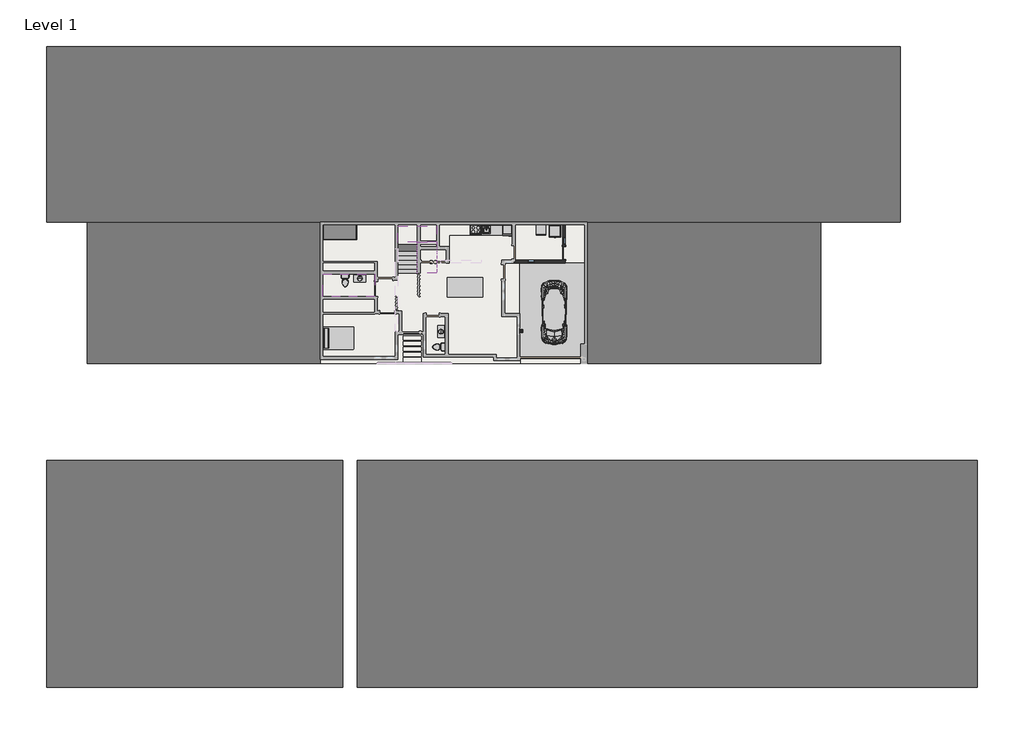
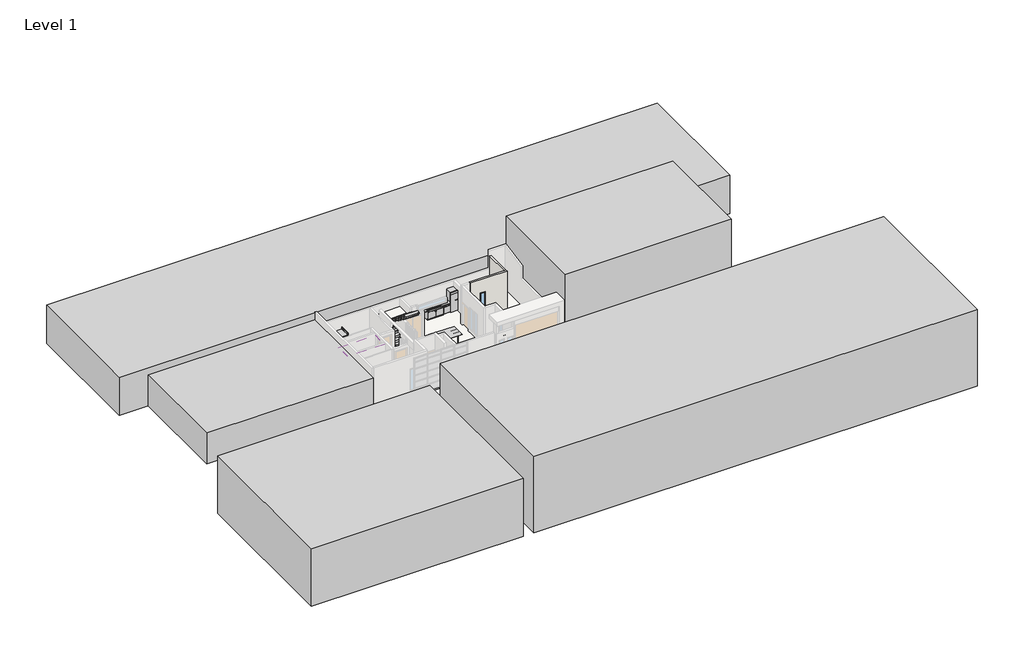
# One storey, part 3 of 3: 9 proxies, 5 flow terminals, 5 slabs, 4 furniture elements, 2 stair flights, 2 walls, 2 windows, 1 covering, 2 other elements.
"""IFC4 building model written with IfcOpenShell, lengths in millimetres."""

from ifc_helpers import new_model, si_unit, frame, origin, place, context, project, spatial, polyline, outline, extrude, faceted_brep, transform, mapped, element, save
from components import m_cook_top_4_unit2_0615_x_500mm_249f3515, m_dishwasher_600mm_bc371557, m_dishwasher_610_x_610_x_875mm_54ecfc4c, m_kitchenette_medium_m_kitchenette_medium_99ec13b9, m_rpc_beetle_m_rpc_beetle_b6d71803, m_refrigerator_600_x_660mm_a466bf94, m_washer_front_load_700mm_9d4a3417, m_single_flush_800_b7240e34, m_lavatory_vanity_760_mmx455_mm_private_e939bdd3, m_sink_kitchen_island_450_x_450mm_f969cf2d, m_toilet_domestic_3d_m_toilet_domestic_3d_43425dfb, m_toilet_domestic_3d_m_toilet_domestic_3d_5530cc89, furniture_2083_x_0915_x_1500mm_7f35f9eb, m_bed_standard_1372_x_1905mm_double_2dcc4a2e, m_counter_top_w_sink_hole_600mm_depth_8ccae52a, m_table_dining_0762_x_2134mm_dd4f9230, ramp_1_197fc1fa, m_fixed_e2bd5fef

model = new_model("IFC4")

# Units and contexts
model_context = context("Model", 3, world=origin())
ifc_project = project(units=[si_unit("LENGTHUNIT", "METRE", prefix="MILLI")], contexts=[model_context])

# Site, building, storey
site = spatial("IfcSite", under=ifc_project)
building = spatial("IfcBuilding", under=site)
storey = spatial("IfcBuildingStorey", under=building, Name="Level 1", Elevation=180.0)

# Proxies
placement = place(None, origin())
element("IfcBuildingElementProxy", 1, Name="600mm Arial", ObjectType="600mm Arial", at=placement, inside=storey, context=model_context, shape_type="SweptSolid", body=[
    extrude(outline(polyline([(-3570.613588, 1882.9643417), (-3570.613588, 1810.3199104), (-3574.0471533, 1778.0198712), (-3584.1271199, 1754.0094396), (-3602.3495414, 1735.6643908), (-3631.6084228, 1721.9301297), (-3672.1490186, 1716.583578), (-3697.5328763, 1718.557878), (-3719.9246271, 1724.4807782), (-3738.956389, 1734.3768038), (-3754.26028, 1748.2704805), (-3763.0526596, 1761.7840125), (-3768.6322032, 1777.799142), (-3771.5262083, 1813.6553738), (-3771.5262083, 1882.9643417), (-3570.613588, 1882.9643417)]), holes=[polyline([(-3595.7276655, 1857.8502641), (-3746.4121307, 1857.8502641), (-3746.4121307, 1814.0968322), (-3742.3899542, 1778.485855), (-3734.0022448, 1764.2917414), (-3720.1208308, 1752.4152843), (-3699.9118465, 1744.3770627), (-3672.5414261, 1741.6976555), (-3651.8848521, 1743.0649503), (-3634.5514787, 1747.1668345), (-3620.4799924, 1753.7212654), (-3609.6090795, 1762.4462001), (-3599.3574345, 1781.0855545), (-3595.7276655, 1813.4101191), (-3595.7276655, 1857.8502641)])]), frame((5457.4157981, 0.0, 0.0), z_axis=(1.0, 0.0, 0.0), x_axis=(0.0, 1.0, 0.0)), (0.0, 0.0, 1.0), 150.0),
    extrude(outline(polyline([(-3570.613588, 1705.4490163), (-3570.613588, 1678.9124617), (-3633.3987818, 1655.9566252), (-3633.3987818, 1573.2077017), (-3570.613588, 1550.2028143), (-3570.613588, 1523.6662597), (-3771.5262083, 1603.8645347), (-3771.5262083, 1625.2507413), (-3570.613588, 1705.4490163)]), holes=[polyline([(-3658.5128593, 1646.7350498), (-3712.2236306, 1627.0656258), (-3746.4121307, 1614.557638), (-3707.9071486, 1600.4800203), (-3658.5128593, 1582.3802261), (-3658.5128593, 1646.7350498)])]), frame((5457.4157981, 0.0, 0.0), z_axis=(1.0, 0.0, 0.0), x_axis=(0.0, 1.0, 0.0)), (0.0, 0.0, 1.0), 150.0),
    extrude(outline(polyline([(-3570.613588, 1496.8353995), (-3570.613588, 1471.721322), (-3658.5128593, 1471.721322), (-3658.5128593, 1441.4078456), (-3657.6299426, 1426.8397186), (-3652.8474766, 1414.8958165), (-3639.824454, 1401.6275392), (-3612.2578298, 1382.7429301), (-3570.613588, 1356.598783), (-3570.613588, 1327.413478), (-3625.0601232, 1360.9152651), (-3650.9099648, 1381.2714021), (-3661.652119, 1395.5452235), (-3668.3107831, 1370.8051594), (-3680.3405244, 1353.4840488), (-3696.7480614, 1343.2753234), (-3716.5401127, 1339.8724149), (-3732.451009, 1341.9264227), (-3746.9271655, 1348.0884462), (-3758.6012875, 1357.6901662), (-3766.1060802, 1370.063264), (-3770.1711762, 1386.9919671), (-3771.5262083, 1410.2605033), (-3771.5262083, 1496.8353995), (-3570.613588, 1496.8353995)]), holes=[polyline([(-3683.6269369, 1471.721322), (-3746.4121307, 1471.721322), (-3746.4121307, 1409.1813828), (-3744.241627, 1389.3096237), (-3737.7301156, 1375.6060194), (-3727.8586154, 1367.6413742), (-3715.608145, 1364.9864925), (-3698.5629459, 1370.5537733), (-3691.8061799, 1377.4086412), (-3687.1831295, 1386.838683), (-3683.6269369, 1415.5089531), (-3683.6269369, 1471.721322)])]), frame((5457.4157981, 0.0, 0.0), z_axis=(1.0, 0.0, 0.0), x_axis=(0.0, 1.0, 0.0)), (0.0, 0.0, 1.0), 150.0),
    extrude(outline(polyline([(-3642.031746, 1154.6560931), (-3620.522912, 1162.7801538), (-3605.0473427, 1175.9687233), (-3595.70314, 1193.4369867), (-3592.5884058, 1214.4001291), (-3594.8754055, 1232.3834273), (-3601.7364048, 1249.0546131), (-3613.2204544, 1262.9605525), (-3629.3766053, 1272.6481117), (-3649.4384368, 1278.3318885), (-3672.639528, 1280.2264808), (-3691.5854507, 1278.6261941), (-3709.9672877, 1273.8253341), (-3726.2276719, 1265.0758739), (-3738.8092362, 1251.629787), (-3746.8658519, 1233.9101376), (-3749.5513904, 1212.3399899), (-3747.1295006, 1193.6270591), (-3739.8638312, 1178.3967445), (-3727.3006611, 1166.5018933), (-3708.9862691, 1157.7953528), (-3714.9704829, 1132.6812752), (-3740.1826623, 1143.7729174), (-3759.0182204, 1161.0572398), (-3770.7536561, 1183.8230039), (-3774.665468, 1211.3589713), (-3771.6427042, 1236.5956761), (-3762.574413, 1259.625089), (-3747.6813236, 1279.043127), (-3727.1841651, 1293.4457071), (-3701.8861466, 1302.3668455), (-3672.590477, 1305.3405583), (-3644.8153864, 1302.710202), (-3618.8797057, 1294.8191333), (-3596.8190488, 1281.8942125), (-3580.6690292, 1264.1623003), (-3570.7730035, 1241.0286542), (-3567.4743283, 1211.8985315), (-3571.8337299, 1183.2037359), (-3584.9119348, 1159.3159317), (-3606.2920101, 1141.1302984), (-3635.5570228, 1129.5420156), (-3642.031746, 1154.6560931)])), frame((5457.4157981, 0.0, 0.0), z_axis=(1.0, 0.0, 0.0), x_axis=(0.0, 1.0, 0.0)), (0.0, 0.0, 1.0), 150.0),
    extrude(outline(polyline([(-3668.4211477, 1104.427938), (-3642.7245904, 1101.5584585), (-3618.4137219, 1092.9500198), (-3597.2850326, 1078.7743002), (-3581.135013, 1059.2029781), (-3570.8894995, 1035.4378012), (-3567.4743283, 1008.6805174), (-3570.564537, 983.4744694), (-3579.8351633, 960.0465176), (-3595.1145288, 940.0705253), (-3616.2309554, 925.2203554), (-3641.8723304, 916.0049115), (-3670.7265416, 912.9330968), (-3699.200608, 915.8516273), (-3724.4863638, 924.6072188), (-3745.5660021, 938.9300911), (-3761.4217161, 958.5504642), (-3771.35453, 982.180751), (-3774.665468, 1008.5333646), (-3772.9027001, 1028.7270205), (-3767.6143964, 1046.9770331), (-3758.8005569, 1063.2834025), (-3746.4611817, 1077.6461288), (-3731.0070722, 1089.3631703), (-3712.84903, 1097.7324857), (-3691.9870552, 1102.7540749), (-3668.4211477, 1104.427938)]), holes=[polyline([(-3668.1758931, 1079.3138605), (-3705.7550389, 1074.0776734), (-3719.8403208, 1067.5324396), (-3730.7894087, 1058.3691122), (-3744.860895, 1035.401013), (-3749.5513904, 1008.3862118), (-3747.1172379, 988.9436484), (-3739.8147803, 971.5244359), (-3728.085476, 957.0850676), (-3712.3707834, 946.5820366), (-3693.1550806, 940.1808899), (-3670.9227453, 938.0471743), (-3637.6784757, 943.0319754), (-3624.2661113, 949.2629767), (-3612.9935938, 957.9863785), (-3597.6897028, 980.6663035), (-3592.5884058, 1008.8276702), (-3597.6406519, 1036.5843667), (-3612.7973901, 1059.2275035), (-3636.746508, 1074.2922712), (-3668.1758931, 1079.3138605)])]), frame((5457.4157981, 0.0, 0.0), z_axis=(1.0, 0.0, 0.0), x_axis=(0.0, 1.0, 0.0)), (0.0, 0.0, 1.0), 150.0),
])
m_cook_top_4_unit2_0615_x_500mm_shape = m_cook_top_4_unit2_0615_x_500mm_249f3515(model_context)
element("IfcBuildingElementProxy", 2, Name="M_Cook Top-4 Unit2 : 0615 x 500mm", ObjectType="M_Cook Top-4 Unit2 : 0615 x 500mm", at=placement, inside=storey, context=model_context, shape_type="MappedRepresentation", body=[
    mapped(m_cook_top_4_unit2_0615_x_500mm_shape, transform((2713.3624114, 2584.0181239, 195.0), x_axis=(1.0, 0.0, 0.0), y_axis=(0.0, 1.0, 0.0), z_axis=(0.0, 0.0, 1.0))),
])
m_dishwasher_600mm_shape = m_dishwasher_600mm_bc371557(model_context)
element("IfcBuildingElementProxy", 3, Name="M_Dishwasher : 600mm", ObjectType="M_Dishwasher : 600mm", at=placement, inside=storey, context=model_context, shape_type="MappedRepresentation", body=[
    mapped(m_dishwasher_600mm_shape, transform((6353.3449429, 2307.3685591, 180.0), x_axis=(1.0, 0.0, 0.0), y_axis=(0.0, 1.0, 0.0), z_axis=(0.0, 0.0, 1.0))),
])
m_dishwasher_610_x_610_x_875mm_shape = m_dishwasher_610_x_610_x_875mm_54ecfc4c(model_context)
element("IfcBuildingElementProxy", 4, Name="M_Dishwasher : 610 x 610 x 875mm", ObjectType="M_Dishwasher : 610 x 610 x 875mm", at=placement, inside=storey, context=model_context, shape_type="MappedRepresentation", body=[
    mapped(m_dishwasher_610_x_610_x_875mm_shape, transform((3678.3449429, 2327.3685591, 180.0), x_axis=(1.0, 0.0, 0.0), y_axis=(0.0, 1.0, 0.0), z_axis=(0.0, 0.0, 1.0))),
])
m_kitchenette_medium_m_kitchenette_medium_shape = m_kitchenette_medium_m_kitchenette_medium_99ec13b9(model_context)
element("IfcBuildingElementProxy", 5, Name="M_Kitchenette - Medium : M_Kitchenette - Medium", ObjectType="M_Kitchenette - Medium : M_Kitchenette - Medium", at=placement, inside=storey, context=model_context, shape_type="MappedRepresentation", body=[
    mapped(m_kitchenette_medium_m_kitchenette_medium_shape, transform((3042.1247065, 2899.0181239, 180.0), x_axis=(1.0, 0.0, 0.0), y_axis=(0.0, 1.0, 0.0), z_axis=(0.0, 0.0, 1.0))),
])
m_rpc_beetle_m_rpc_beetle_shape = m_rpc_beetle_m_rpc_beetle_b6d71803(model_context)
element("IfcBuildingElementProxy", 6, Name="M_RPC Beetle : M_RPC Beetle", ObjectType="M_RPC Beetle : M_RPC Beetle", at=placement, inside=storey, context=model_context, shape_type="MappedRepresentation", body=[
    mapped(m_rpc_beetle_m_rpc_beetle_shape, transform((7549.7097075, -1295.9818761, 180.0), x_axis=(-1.0, 0.0, 0.0), y_axis=(0.0, -1.0, 0.0), z_axis=(0.0, 0.0, 1.0))),
])
m_refrigerator_600_x_660mm_shape = m_refrigerator_600_x_660mm_a466bf94(model_context)
element("IfcBuildingElementProxy", 7, Name="M_Refrigerator : 600 x 660mm", ObjectType="M_Refrigerator : 600 x 660mm", at=placement, inside=storey, context=model_context, shape_type="MappedRepresentation", body=[
    mapped(m_refrigerator_600_x_660mm_shape, transform((4719.6635541, 2602.8030337, 180.0), x_axis=(1.0, 0.0, 0.0), y_axis=(0.0, 1.0, 0.0), z_axis=(0.0, 0.0, 1.0))),
])
m_washer_front_load_700mm_shape = m_washer_front_load_700mm_9d4a3417(model_context)
element("IfcBuildingElementProxy", 8, Name="M_Washer-Front_Load : 700mm", ObjectType="M_Washer-Front_Load : 700mm", at=placement, inside=storey, context=model_context, shape_type="MappedRepresentation", body=[
    mapped(m_washer_front_load_700mm_shape, transform((7600.8624114, 2979.0181239, 180.0), x_axis=(1.0, 0.0, 0.0), y_axis=(0.0, 1.0, 0.0), z_axis=(0.0, 0.0, 1.0))),
])
element("IfcBuildingElementProxy", 9, Name="Mass 1 : Mass 1", ObjectType="Mass 1 : Mass 1", at=placement, inside=storey, context=model_context, shape_type="SweptSolid", body=[
    extrude(outline(polyline([(-23794.1375886, 13907.3349207), (28905.8624114, 13907.3349207), (28905.8624114, 3069.0181239), (-23794.1375886, 3069.0181239), (-23794.1375886, 13907.3349207)])), frame((0.0, 0.0, 180.0), z_axis=(0.0, 0.0, 1.0), x_axis=(1.0, 0.0, 0.0)), (0.0, 0.0, 1.0), 3500.0),
    extrude(outline(polyline([(9605.8624114, 3069.0181239), (24005.8624114, 3069.0181239), (24005.8624114, -5680.9818761), (9605.8624114, -5680.9818761), (9605.8624114, 3069.0181239)])), frame((0.0, 0.0, 180.0), z_axis=(0.0, 0.0, 1.0), x_axis=(1.0, 0.0, 0.0)), (0.0, 0.0, 1.0), 6500.0),
    extrude(outline(polyline([(-21294.1375886, 3069.0181239), (-6894.1375886, 3069.0181239), (-6894.1375886, -5680.9818761), (-21294.1375886, -5680.9818761), (-21294.1375886, 3069.0181239)])), frame((0.0, 0.0, 180.0), z_axis=(0.0, 0.0, 1.0), x_axis=(1.0, 0.0, 0.0)), (0.0, 0.0, 1.0), 2834.5766912),
    extrude(outline(polyline([(-4594.1375886, -11680.9818761), (33688.1964342, -11680.9818761), (33688.1964342, -25680.9818761), (-4594.1375886, -25680.9818761), (-4594.1375886, -11680.9818761)])), frame((0.0, 0.0, 180.0), z_axis=(0.0, 0.0, 1.0), x_axis=(1.0, 0.0, 0.0)), (0.0, 0.0, 1.0), 7000.0),
    extrude(outline(polyline([(-23794.1375886, -11680.9818761), (-5494.1375886, -11680.9818761), (-5494.1375886, -25680.9818761), (-23794.1375886, -25680.9818761), (-23794.1375886, -11680.9818761)])), frame((0.0, 0.0, 180.0), z_axis=(0.0, 0.0, 1.0), x_axis=(1.0, 0.0, 0.0)), (0.0, 0.0, 1.0), 5274.7462067),
])

# Covering
element("IfcCovering", 10, ObjectType="600 x 1200mm grid", at=placement, inside=storey, context=model_context, shape_type="SweptSolid", body=[
    extrude(outline(polyline([(-6724.1375886, -1530.9818761), (-6724.1375886, -150.9818761), (-3535.1157199, -150.9818761), (-3535.1157199, -1530.9818761), (-6724.1375886, -1530.9818761)])), frame((0.0, 0.0, 2380.0), z_axis=(0.0, 0.0, 1.0), x_axis=(1.0, 0.0, 0.0)), (0.0, 0.0, 1.0), 52.0),
])

# Door
m_single_flush_800_shape = m_single_flush_800_b7240e34(model_context)
element("IfcDoor", 11, ObjectType="M_Single-Flush : 800", at=placement, inside=storey, context=model_context, shape_type="MappedRepresentation", body=[
    mapped(m_single_flush_800_shape, transform((8150.8624114, 1155.0181239, 180.0), x_axis=(0.0, -1.0, 0.0), y_axis=(1.0, 0.0, 0.0), z_axis=(0.0, 0.0, 1.0))),
])

# Flow terminals
m_lavatory_vanity_760_mmx455_mm_private_shape = m_lavatory_vanity_760_mmx455_mm_private_e939bdd3(model_context)
element("IfcFlowTerminal", 12, ObjectType="M_Lavatory - Vanity : 760 mmx455 mm - Private", at=placement, inside=storey, context=model_context, shape_type="MappedRepresentation", body=[
    mapped(m_lavatory_vanity_760_mmx455_mm_private_shape, transform((-4450.1157199, -150.9818761, 180.0), x_axis=(0.0, -1.0, 0.0), y_axis=(1.0, 0.0, 0.0), z_axis=(0.0, 0.0, 1.0))),
])
element("IfcFlowTerminal", 13, ObjectType="M_Lavatory - Vanity : 760 mmx455 mm - Private", at=placement, inside=storey, context=model_context, shape_type="MappedRepresentation", body=[
    mapped(m_lavatory_vanity_760_mmx455_mm_private_shape, transform((834.8842801, -3705.9818761, 180.0), x_axis=(-1.0, 0.0, 0.0), y_axis=(0.0, -1.0, 0.0), z_axis=(0.0, 0.0, 1.0))),
])
m_sink_kitchen_island_450_x_450mm_shape = m_sink_kitchen_island_450_x_450mm_f969cf2d(model_context)
element("IfcFlowTerminal", 14, ObjectType="M_Sink Kitchen-Island : 450 x 450mm", at=placement, inside=storey, context=model_context, shape_type="MappedRepresentation", body=[
    mapped(m_sink_kitchen_island_450_x_450mm_shape, transform((3350.1731709, 2583.5727227, 195.0), x_axis=(1.0, 0.0, 0.0), y_axis=(0.0, 1.0, 0.0), z_axis=(0.0, 0.0, 1.0))),
])
m_toilet_domestic_3d_m_toilet_domestic_3d_shape = m_toilet_domestic_3d_m_toilet_domestic_3d_43425dfb(model_context)
m_toilet_domestic_3d_m_toilet_domestic_3d_2_shape = m_toilet_domestic_3d_m_toilet_domestic_3d_5530cc89(model_context)
element("IfcFlowTerminal", 15, ObjectType="M_Toilet-Domestic-3D : M_Toilet-Domestic-3D", at=placement, inside=storey, context=model_context, shape_type="MappedRepresentation", body=[
    mapped(m_toilet_domestic_3d_m_toilet_domestic_3d_shape, transform((-5356.4103567, -645.6779035, 180.0), x_axis=(-1.0, 0.0, 0.0), y_axis=(0.0, -1.0, 0.0), z_axis=(0.0, 0.0, 1.0))),
    mapped(m_toilet_domestic_3d_m_toilet_domestic_3d_2_shape, transform((-5356.4103567, -645.6779035, 180.0), x_axis=(-1.0, 0.0, 0.0), y_axis=(0.0, -1.0, 0.0), z_axis=(0.0, 0.0, 1.0))),
])
element("IfcFlowTerminal", 16, ObjectType="M_Toilet-Domestic-3D : M_Toilet-Domestic-3D", at=placement, inside=storey, context=model_context, shape_type="MappedRepresentation", body=[
    mapped(m_toilet_domestic_3d_m_toilet_domestic_3d_shape, transform((340.1882527, -4659.3779035, 180.0), x_axis=(0.0, 1.0, 0.0), y_axis=(-1.0, 0.0, 0.0), z_axis=(0.0, 0.0, 1.0))),
    mapped(m_toilet_domestic_3d_m_toilet_domestic_3d_2_shape, transform((340.1882527, -4659.3779035, 180.0), x_axis=(0.0, 1.0, 0.0), y_axis=(-1.0, 0.0, 0.0), z_axis=(0.0, 0.0, 1.0))),
])

# Furniture
furniture_2083_x_0915_x_1500mm_shape = furniture_2083_x_0915_x_1500mm_7f35f9eb(model_context)
element("IfcFurniture", 17, ObjectType="M_Bed-Bunk : 2083 x 0915 x 1500mm", at=placement, inside=storey, context=model_context, shape_type="MappedRepresentation", body=[
    mapped(furniture_2083_x_0915_x_1500mm_shape, transform((-6073.6310312, 2033.0361566, 180.0), x_axis=(0.0, 1.0, 0.0), y_axis=(-1.0, 0.0, 0.0), z_axis=(0.0, 0.0, 1.0))),
])
m_bed_standard_1372_x_1905mm_double_shape = m_bed_standard_1372_x_1905mm_double_2dcc4a2e(model_context)
element("IfcFurniture", 18, ObjectType="M_Bed-Standard : 1372 x 1905mm - Double", at=placement, inside=storey, context=model_context, shape_type="MappedRepresentation", body=[
    mapped(m_bed_standard_1372_x_1905mm_double_shape, transform((-5817.2326705, -4386.4704007, 180.0), x_axis=(0.0, 1.0, 0.0), y_axis=(-1.0, 0.0, 0.0), z_axis=(0.0, 0.0, 1.0))),
])
m_counter_top_w_sink_hole_600mm_depth_shape = m_counter_top_w_sink_hole_600mm_depth_8ccae52a(model_context)
element("IfcFurniture", 19, ObjectType="M_Counter Top w Sink Hole : 600mm Depth", at=placement, inside=storey, context=model_context, shape_type="MappedRepresentation", body=[
    mapped(m_counter_top_w_sink_hole_600mm_depth_shape, transform((3566.3247065, 2899.0181239, 195.0), x_axis=(1.0, 0.0, 0.0), y_axis=(0.0, 1.0, 0.0), z_axis=(0.0, 0.0, 1.0))),
])
m_table_dining_0762_x_2134mm_shape = m_table_dining_0762_x_2134mm_dd4f9230(model_context)
element("IfcFurniture", 20, ObjectType="M_Table-Dining : 0762 x 2134mm", at=placement, inside=storey, context=model_context, shape_type="MappedRepresentation", body=[
    mapped(m_table_dining_0762_x_2134mm_shape, transform((2072.8190634, -870.7707983, 180.0), x_axis=(-1.0, 0.0, 0.0), y_axis=(0.0, -1.0, 0.0), z_axis=(0.0, 0.0, 1.0))),
])

# Ramp
ramp_1_shape = ramp_1_197fc1fa(model_context)
element("IfcRamp", 21, ObjectType="Ramp 1", at=placement, inside=storey, context=model_context, shape_type="MappedRepresentation", body=[
    mapped(ramp_1_shape, transform((0.0, 0.0, 0.0), x_axis=(1.0, 0.0, 0.0), y_axis=(0.0, 1.0, 0.0), z_axis=(0.0, 0.0, 1.0))),
])

# Slabs
element("IfcSlab", 22, ObjectType="300mm Thickness", at=placement, inside=storey, context=model_context, shape_type="SolidModel", body=[
    faceted_brep([(-2100.1157199, 1831.5181239, 1794.0), (-900.1157199, 1831.5181239, 1794.0), (-900.1157199, 1819.0181239, 1794.0), (299.8842801, 1819.0181239, 1794.0), (299.8842801, 2819.0181239, 1794.0), (-2100.1157199, 2819.0181239, 1794.0), (-2100.1157199, 1906.5181239, 1794.0), (-2100.1157199, 1831.5181239, 1616.0), (-2100.1157199, 1831.5181239, 1516.0), (-900.1157199, 1831.5181239, 1516.0), (-900.1157199, 1831.5181239, 1616.0), (-900.1157199, 1831.5181239, 1694.0), (-900.1157199, 1819.0181239, 1694.0), (299.8842801, 1819.0181239, 1694.0), (299.8842801, 2819.0181239, 1694.0), (-2100.1157199, 2819.0181239, 1694.0), (-2100.1157199, 1931.5181239, 1694.0), (-2100.1157199, 1931.5181239, 1516.0), (-900.1157199, 1931.5181239, 1516.0), (-900.1157199, 1931.5181239, 1694.0), (-900.1157199, 1906.5181239, 1694.0)], [[[0, 1, 2, 3, 4, 5, 6]], [[1, 0, 7, 8, 9, 10, 11]], [[2, 1, 11, 12]], [[4, 3, 13, 14]], [[5, 4, 14, 15]], [[8, 7, 0, 6, 5, 15, 16, 17]], [[18, 19, 20, 11, 10, 9]], [[17, 18, 9, 8]], [[20, 19, 16, 15, 14, 13, 12, 11]], [[3, 2, 12, 13]], [[18, 17, 16, 19]]]),
    extrude(outline(polyline([(-2100.1157199, 1819.0181239), (-2100.1157199, 2819.0181239), (299.8842801, 2819.0181239), (299.8842801, 1819.0181239), (-900.1157199, 1819.0181239), (-2100.1157199, 1819.0181239)])), frame((0.0, 0.0, 1794.0), z_axis=(0.0, 0.0, 1.0), x_axis=(1.0, 0.0, 0.0)), (0.0, 0.0, 1.0), 50.0),
])
element("IfcSlab", 23, ObjectType="Barra", at=placement, inside=storey, context=model_context, shape_type="SweptSolid", body=[
    extrude(outline(polyline([(469.8842801, 2899.0181239), (2365.8624114, 2899.0181239), (2365.8624114, 2269.0181239), (1069.8842801, 2269.0181239), (1069.8842801, 1539.0181239), (469.8842801, 1539.0181239), (469.8842801, 2899.0181239)])), frame((0.0, 0.0, 990.0), z_axis=(0.0, 0.0, 1.0), x_axis=(1.0, 0.0, 0.0)), (0.0, 0.0, 1.0), 50.0),
])
element("IfcSlab", 24, ObjectType="Losa", at=placement, inside=storey, context=model_context, shape_type="SweptSolid", body=[
    extrude(outline(polyline([(-647.7505046, -3982.7352523), (-647.7505046, -4232.7352523), (-1767.7505046, -4232.7352523), (-1767.7505046, -3982.7352523), (-647.7505046, -3982.7352523)])), frame((0.0, 0.0, 100.0), z_axis=(0.0, 0.0, 1.0), x_axis=(1.0, 0.0, 0.0)), (0.0, 0.0, 1.0), 140.0),
    extrude(outline(polyline([(-647.7505046, -4317.7352523), (-647.7505046, -4567.7352523), (-1767.7505046, -4567.7352523), (-1767.7505046, -4317.7352523), (-647.7505046, -4317.7352523)])), frame((0.0, 0.0, 100.0), z_axis=(0.0, 0.0, 1.0), x_axis=(1.0, 0.0, 0.0)), (0.0, 0.0, 1.0), 140.0),
    extrude(outline(polyline([(-647.7505046, -4652.7352523), (-647.7505046, -4902.7352523), (-1767.7505046, -4902.7352523), (-1767.7505046, -4652.7352523), (-647.7505046, -4652.7352523)])), frame((0.0, 0.0, 100.0), z_axis=(0.0, 0.0, 1.0), x_axis=(1.0, 0.0, 0.0)), (0.0, 0.0, 1.0), 140.0),
    extrude(outline(polyline([(-647.7505046, -4987.7352523), (-647.7505046, -5237.7352523), (-1767.7505046, -5237.7352523), (-1767.7505046, -4987.7352523), (-647.7505046, -4987.7352523)])), frame((0.0, 0.0, 100.0), z_axis=(0.0, 0.0, 1.0), x_axis=(1.0, 0.0, 0.0)), (0.0, 0.0, 1.0), 140.0),
    extrude(outline(polyline([(-647.7505046, -5322.7352523), (-647.7505046, -5572.7352523), (-1767.7505046, -5572.7352523), (-1767.7505046, -5322.7352523), (-647.7505046, -5322.7352523)])), frame((0.0, 0.0, 100.0), z_axis=(0.0, 0.0, 1.0), x_axis=(1.0, 0.0, 0.0)), (0.0, 0.0, 1.0), 140.0),
])
element("IfcSlab", 25, ObjectType="Losa", at=placement, inside=storey, context=model_context, shape_type="SweptSolid", body=[
    extrude(outline(polyline([(9605.8624114, 3069.0181239), (9605.8624114, -5680.9818761), (-6894.1375886, -5680.9818761), (-6894.1375886, 3069.0181239), (9605.8624114, 3069.0181239)])), frame((0.0, 0.0, 40.0), z_axis=(0.0, 0.0, 1.0), x_axis=(1.0, 0.0, 0.0)), (0.0, 0.0, 1.0), 140.0),
])
element("IfcSlab", 26, ObjectType="Pasto", at=placement, inside=storey, context=model_context, shape_type="SweptSolid", body=[
    extrude(outline(polyline([(-2100.1157199, -5430.9818761), (-2100.1157199, -3880.9818761), (-545.1157199, -3880.9818761), (-545.1157199, -5279.9818761), (3805.8624114, -5279.9818761), (3805.8624114, -5494.9818761), (5464.7097075, -5494.9818761), (5464.7097075, -5680.9818761), (-6894.1375886, -5680.9818761), (-6894.1375886, -5430.9818761), (-2100.1157199, -5430.9818761)])), frame((0.0, 0.0, 210.0), z_axis=(0.0, 0.0, 1.0), x_axis=(1.0, 0.0, 0.0)), (0.0, 0.0, 1.0), 20.0),
])

# Stair flights
element("IfcStairFlight", 27, ObjectType="150mm Depth", at=placement, inside=storey, context=model_context, shape_type="SolidModel", body=[
    faceted_brep([(-2100.1157199, 181.5181239, 368.0), (-2100.1157199, -93.4818761, 368.0), (-900.1157199, -93.4818761, 368.0), (-900.1157199, 181.5181239, 368.0), (-2100.1157199, 181.5181239, 268.0), (-2100.1157199, -93.4818761, 268.0), (-900.1157199, -93.4818761, 268.0), (-900.1157199, 181.5181239, 268.0), (-2100.1157199, 456.5181239, 576.0), (-2100.1157199, 181.5181239, 576.0), (-900.1157199, 181.5181239, 576.0), (-900.1157199, 456.5181239, 576.0), (-2100.1157199, 456.5181239, 476.0), (-2100.1157199, 281.5181239, 476.0), (-2100.1157199, 281.5181239, 268.0), (-900.1157199, 281.5181239, 268.0), (-900.1157199, 281.5181239, 476.0), (-900.1157199, 456.5181239, 476.0), (-2100.1157199, 731.5181239, 784.0), (-2100.1157199, 456.5181239, 784.0), (-900.1157199, 456.5181239, 784.0), (-900.1157199, 731.5181239, 784.0), (-2100.1157199, 731.5181239, 684.0), (-2100.1157199, 556.5181239, 684.0), (-2100.1157199, 556.5181239, 476.0), (-900.1157199, 556.5181239, 476.0), (-900.1157199, 556.5181239, 684.0), (-900.1157199, 731.5181239, 684.0), (-2100.1157199, 1006.5181239, 992.0), (-2100.1157199, 731.5181239, 992.0), (-900.1157199, 731.5181239, 992.0), (-900.1157199, 1006.5181239, 992.0), (-2100.1157199, 1006.5181239, 892.0), (-2100.1157199, 831.5181239, 892.0), (-2100.1157199, 831.5181239, 684.0), (-900.1157199, 831.5181239, 684.0), (-900.1157199, 831.5181239, 892.0), (-900.1157199, 1006.5181239, 892.0), (-2100.1157199, 1281.5181239, 1200.0), (-2100.1157199, 1006.5181239, 1200.0), (-900.1157199, 1006.5181239, 1200.0), (-900.1157199, 1281.5181239, 1200.0), (-2100.1157199, 1281.5181239, 1100.0), (-2100.1157199, 1106.5181239, 1100.0), (-2100.1157199, 1106.5181239, 892.0), (-900.1157199, 1106.5181239, 892.0), (-900.1157199, 1106.5181239, 1100.0), (-900.1157199, 1281.5181239, 1100.0), (-2100.1157199, 1556.5181239, 1408.0), (-2100.1157199, 1281.5181239, 1408.0), (-900.1157199, 1281.5181239, 1408.0), (-900.1157199, 1556.5181239, 1408.0), (-2100.1157199, 1556.5181239, 1308.0), (-2100.1157199, 1381.5181239, 1308.0), (-2100.1157199, 1381.5181239, 1100.0), (-900.1157199, 1381.5181239, 1100.0), (-900.1157199, 1381.5181239, 1308.0), (-900.1157199, 1556.5181239, 1308.0), (-2100.1157199, 1656.5181239, 1308.0), (-900.1157199, 1656.5181239, 1308.0), (-2100.1157199, 1656.5181239, 1516.0), (-900.1157199, 1656.5181239, 1516.0), (-2100.1157199, 1819.0181239, 1516.0), (-2100.1157199, 1831.5181239, 1516.0), (-900.1157199, 1831.5181239, 1516.0), (-2100.1157199, 1556.5181239, 1616.0), (-900.1157199, 1556.5181239, 1616.0), (-900.1157199, 1831.5181239, 1616.0), (-2100.1157199, 1831.5181239, 1616.0), (-2100.1157199, 1819.0181239, 1616.0)], [[[0, 1, 2, 3]], [[1, 0, 4, 5]], [[2, 1, 5, 6]], [[3, 2, 6, 7]], [[8, 9, 10, 11]], [[9, 8, 12, 13, 14, 4, 0]], [[0, 3, 10, 9]], [[11, 10, 3, 7, 15, 16, 17]], [[18, 19, 20, 21]], [[19, 18, 22, 23, 24, 12, 8]], [[8, 11, 20, 19]], [[21, 20, 11, 17, 25, 26, 27]], [[28, 29, 30, 31]], [[29, 28, 32, 33, 34, 22, 18]], [[18, 21, 30, 29]], [[31, 30, 21, 27, 35, 36, 37]], [[38, 39, 40, 41]], [[39, 38, 42, 43, 44, 32, 28]], [[28, 31, 40, 39]], [[41, 40, 31, 37, 45, 46, 47]], [[48, 49, 50, 51]], [[49, 48, 52, 53, 54, 42, 38]], [[38, 41, 50, 49]], [[51, 50, 41, 47, 55, 56, 57]], [[14, 15, 7, 6, 5, 4]], [[15, 14, 13, 16]], [[24, 25, 17, 16, 13, 12]], [[25, 24, 23, 26]], [[34, 35, 27, 26, 23, 22]], [[35, 34, 33, 36]], [[44, 45, 37, 36, 33, 32]], [[45, 44, 43, 46]], [[54, 55, 47, 46, 43, 42]], [[55, 54, 53, 56]], [[58, 59, 57, 56, 53, 52]], [[59, 58, 60, 61]], [[61, 60, 62, 63, 64]], [[65, 66, 67, 68, 69]], [[48, 65, 69, 68, 63, 62, 60, 58, 52]], [[48, 51, 66, 65]], [[67, 66, 51, 57, 59, 61, 64]], [[68, 67, 64, 63]]]),
    extrude(outline(polyline([(-2100.1157199, 169.0181239), (-900.1157199, 169.0181239), (-900.1157199, -105.9818761), (-2100.1157199, -105.9818761), (-2100.1157199, 169.0181239)])), frame((0.0, 0.0, 368.0), z_axis=(0.0, 0.0, 1.0), x_axis=(1.0, 0.0, 0.0)), (0.0, 0.0, 1.0), 20.0),
    extrude(outline(polyline([(-900.1157199, -93.4818761), (-900.1157199, -105.9818761), (-2100.1157199, -105.9818761), (-2100.1157199, -93.4818761), (-900.1157199, -93.4818761)])), frame((0.0, 0.0, 180.0), z_axis=(0.0, 0.0, 1.0), x_axis=(1.0, 0.0, 0.0)), (0.0, 0.0, 1.0), 188.0),
    extrude(outline(polyline([(-900.1157199, 181.5181239), (-900.1157199, 169.0181239), (-2100.1157199, 169.0181239), (-2100.1157199, 181.5181239), (-900.1157199, 181.5181239)])), frame((0.0, 0.0, 368.0), z_axis=(0.0, 0.0, 1.0), x_axis=(1.0, 0.0, 0.0)), (0.0, 0.0, 1.0), 208.0),
    extrude(outline(polyline([(-2100.1157199, 444.0181239), (-900.1157199, 444.0181239), (-900.1157199, 169.0181239), (-2100.1157199, 169.0181239), (-2100.1157199, 444.0181239)])), frame((0.0, 0.0, 576.0), z_axis=(0.0, 0.0, 1.0), x_axis=(1.0, 0.0, 0.0)), (0.0, 0.0, 1.0), 20.0),
    extrude(outline(polyline([(-900.1157199, 456.5181239), (-900.1157199, 444.0181239), (-2100.1157199, 444.0181239), (-2100.1157199, 456.5181239), (-900.1157199, 456.5181239)])), frame((0.0, 0.0, 576.0), z_axis=(0.0, 0.0, 1.0), x_axis=(1.0, 0.0, 0.0)), (0.0, 0.0, 1.0), 208.0),
    extrude(outline(polyline([(-2100.1157199, 719.0181239), (-900.1157199, 719.0181239), (-900.1157199, 444.0181239), (-2100.1157199, 444.0181239), (-2100.1157199, 719.0181239)])), frame((0.0, 0.0, 784.0), z_axis=(0.0, 0.0, 1.0), x_axis=(1.0, 0.0, 0.0)), (0.0, 0.0, 1.0), 20.0),
    extrude(outline(polyline([(-900.1157199, 731.5181239), (-900.1157199, 719.0181239), (-2100.1157199, 719.0181239), (-2100.1157199, 731.5181239), (-900.1157199, 731.5181239)])), frame((0.0, 0.0, 784.0), z_axis=(0.0, 0.0, 1.0), x_axis=(1.0, 0.0, 0.0)), (0.0, 0.0, 1.0), 208.0),
    extrude(outline(polyline([(-2100.1157199, 994.0181239), (-900.1157199, 994.0181239), (-900.1157199, 719.0181239), (-2100.1157199, 719.0181239), (-2100.1157199, 994.0181239)])), frame((0.0, 0.0, 992.0), z_axis=(0.0, 0.0, 1.0), x_axis=(1.0, 0.0, 0.0)), (0.0, 0.0, 1.0), 20.0),
    extrude(outline(polyline([(-900.1157199, 1006.5181239), (-900.1157199, 994.0181239), (-2100.1157199, 994.0181239), (-2100.1157199, 1006.5181239), (-900.1157199, 1006.5181239)])), frame((0.0, 0.0, 992.0), z_axis=(0.0, 0.0, 1.0), x_axis=(1.0, 0.0, 0.0)), (0.0, 0.0, 1.0), 208.0),
    extrude(outline(polyline([(-2100.1157199, 1269.0181239), (-900.1157199, 1269.0181239), (-900.1157199, 994.0181239), (-2100.1157199, 994.0181239), (-2100.1157199, 1269.0181239)])), frame((0.0, 0.0, 1200.0), z_axis=(0.0, 0.0, 1.0), x_axis=(1.0, 0.0, 0.0)), (0.0, 0.0, 1.0), 20.0),
    extrude(outline(polyline([(-900.1157199, 1281.5181239), (-900.1157199, 1269.0181239), (-2100.1157199, 1269.0181239), (-2100.1157199, 1281.5181239), (-900.1157199, 1281.5181239)])), frame((0.0, 0.0, 1200.0), z_axis=(0.0, 0.0, 1.0), x_axis=(1.0, 0.0, 0.0)), (0.0, 0.0, 1.0), 208.0),
    extrude(outline(polyline([(-2100.1157199, 1544.0181239), (-900.1157199, 1544.0181239), (-900.1157199, 1269.0181239), (-2100.1157199, 1269.0181239), (-2100.1157199, 1544.0181239)])), frame((0.0, 0.0, 1408.0), z_axis=(0.0, 0.0, 1.0), x_axis=(1.0, 0.0, 0.0)), (0.0, 0.0, 1.0), 20.0),
    extrude(outline(polyline([(-900.1157199, 1556.5181239), (-900.1157199, 1544.0181239), (-2100.1157199, 1544.0181239), (-2100.1157199, 1556.5181239), (-900.1157199, 1556.5181239)])), frame((0.0, 0.0, 1408.0), z_axis=(0.0, 0.0, 1.0), x_axis=(1.0, 0.0, 0.0)), (0.0, 0.0, 1.0), 208.0),
    extrude(outline(polyline([(-900.1157199, 1831.5181239), (-900.1157199, 1819.0181239), (-2100.1157199, 1819.0181239), (-2100.1157199, 1831.5181239), (-900.1157199, 1831.5181239)])), frame((0.0, 0.0, 1616.0), z_axis=(0.0, 0.0, 1.0), x_axis=(1.0, 0.0, 0.0)), (0.0, 0.0, 1.0), 178.0),
    extrude(outline(polyline([(-2100.1157199, 1819.0181239), (-900.1157199, 1819.0181239), (-900.1157199, 1544.0181239), (-2100.1157199, 1544.0181239), (-2100.1157199, 1819.0181239)])), frame((0.0, 0.0, 1616.0), z_axis=(0.0, 0.0, 1.0), x_axis=(1.0, 0.0, 0.0)), (0.0, 0.0, 1.0), 20.0),
])
element("IfcStairFlight", 28, ObjectType="150mm Depth", at=placement, inside=storey, context=model_context, shape_type="SolidModel", body=[
    faceted_brep([(299.8842801, 1819.0181239, 1824.0), (-900.1157199, 1819.0181239, 1824.0), (-900.1157199, 1719.0181239, 1824.0), (-900.1157199, 1531.5181239, 1824.0), (299.8842801, 1531.5181239, 1824.0), (299.8842801, 1719.0181239, 1824.0), (299.8842801, 1531.5181239, 1724.0), (299.8842801, 1719.0181239, 1724.0), (299.8842801, 1719.0181239, 1694.0), (299.8842801, 1819.0181239, 1694.0), (299.8842801, 1819.0181239, 1794.0), (-900.1157199, 1819.0181239, 1694.0), (-900.1157199, 1819.0181239, 1794.0), (-900.1157199, 1719.0181239, 1694.0), (-900.1157199, 1719.0181239, 1724.0), (-900.1157199, 1531.5181239, 1724.0), (299.8842801, 1256.5181239, 2032.0), (299.8842801, 1531.5181239, 2032.0), (-900.1157199, 1531.5181239, 2032.0), (-900.1157199, 1256.5181239, 2032.0), (299.8842801, 1256.5181239, 1932.0), (299.8842801, 1431.5181239, 1932.0), (299.8842801, 1431.5181239, 1724.0), (-900.1157199, 1431.5181239, 1724.0), (-900.1157199, 1431.5181239, 1932.0), (-900.1157199, 1256.5181239, 1932.0), (299.8842801, 981.5181239, 2240.0), (299.8842801, 1256.5181239, 2240.0), (-900.1157199, 1256.5181239, 2240.0), (-900.1157199, 981.5181239, 2240.0), (299.8842801, 981.5181239, 2140.0), (299.8842801, 1156.5181239, 2140.0), (299.8842801, 1156.5181239, 1932.0), (-900.1157199, 1156.5181239, 1932.0), (-900.1157199, 1156.5181239, 2140.0), (-900.1157199, 981.5181239, 2140.0), (299.8842801, 706.5181239, 2448.0), (299.8842801, 981.5181239, 2448.0), (-900.1157199, 981.5181239, 2448.0), (-900.1157199, 706.5181239, 2448.0), (299.8842801, 706.5181239, 2348.0), (299.8842801, 881.5181239, 2348.0), (299.8842801, 881.5181239, 2140.0), (-900.1157199, 881.5181239, 2140.0), (-900.1157199, 881.5181239, 2348.0), (-900.1157199, 706.5181239, 2348.0), (299.8842801, 431.5181239, 2656.0), (299.8842801, 706.5181239, 2656.0), (-900.1157199, 706.5181239, 2656.0), (-900.1157199, 431.5181239, 2656.0), (299.8842801, 431.5181239, 2556.0), (299.8842801, 606.5181239, 2556.0), (299.8842801, 606.5181239, 2348.0), (-900.1157199, 606.5181239, 2348.0), (-900.1157199, 606.5181239, 2556.0), (-900.1157199, 431.5181239, 2556.0), (299.8842801, 331.5181239, 2556.0), (-900.1157199, 331.5181239, 2556.0), (299.8842801, 331.5181239, 2764.0), (-900.1157199, 331.5181239, 2764.0), (299.8842801, -105.9818761, 3072.0), (299.8842801, 156.5181239, 3072.0), (-900.1157199, 156.5181239, 3072.0), (-900.1157199, -105.9818761, 3072.0), (299.8842801, -105.9818761, 2972.0), (299.8842801, 56.5181239, 2972.0), (299.8842801, 56.5181239, 2764.0), (299.8842801, 156.5181239, 2764.0), (299.8842801, 156.5181239, 2864.0), (-900.1157199, 156.5181239, 2864.0), (-900.1157199, 156.5181239, 2764.0), (-900.1157199, 56.5181239, 2764.0), (-900.1157199, 56.5181239, 2972.0), (-900.1157199, -105.9818761, 2972.0), (299.8842801, 431.5181239, 2864.0), (-900.1157199, 431.5181239, 2864.0)], [[[0, 1, 2, 3, 4, 5]], [[4, 6, 7, 8, 9, 10, 0, 5]], [[1, 0, 10, 9, 11, 12]], [[1, 12, 11, 13, 14, 15, 3, 2]], [[16, 17, 18, 19]], [[17, 16, 20, 21, 22, 6, 4]], [[18, 17, 4, 3]], [[19, 18, 3, 15, 23, 24, 25]], [[26, 27, 28, 29]], [[27, 26, 30, 31, 32, 20, 16]], [[28, 27, 16, 19]], [[29, 28, 19, 25, 33, 34, 35]], [[36, 37, 38, 39]], [[37, 36, 40, 41, 42, 30, 26]], [[38, 37, 26, 29]], [[39, 38, 29, 35, 43, 44, 45]], [[46, 47, 48, 49]], [[47, 46, 50, 51, 52, 40, 36]], [[48, 47, 36, 39]], [[49, 48, 39, 45, 53, 54, 55]], [[8, 13, 11, 9]], [[22, 23, 15, 14, 7, 6]], [[32, 33, 25, 24, 21, 20]], [[42, 43, 35, 34, 31, 30]], [[52, 53, 45, 44, 41, 40]], [[56, 57, 55, 54, 51, 50]], [[23, 22, 21, 24]], [[33, 32, 31, 34]], [[43, 42, 41, 44]], [[53, 52, 51, 54]], [[57, 56, 58, 59]], [[13, 8, 7, 14]], [[60, 61, 62, 63]], [[61, 60, 64, 65, 66, 67, 68]], [[62, 61, 68, 69]], [[63, 62, 69, 70, 71, 72, 73]], [[60, 63, 73, 64]], [[66, 71, 70, 59, 58, 67]], [[71, 66, 65, 72]], [[72, 65, 64, 73]], [[68, 74, 75, 69]], [[74, 68, 67, 58, 56, 50, 46]], [[75, 74, 46, 49]], [[69, 75, 49, 55, 57, 59, 70]]]),
    extrude(outline(polyline([(299.8842801, 1544.0181239), (-900.1157199, 1544.0181239), (-900.1157199, 1819.0181239), (299.8842801, 1819.0181239), (299.8842801, 1544.0181239)])), frame((0.0, 0.0, 1824.0), z_axis=(0.0, 0.0, 1.0), x_axis=(1.0, 0.0, 0.0)), (0.0, 0.0, 1.0), 20.0),
    extrude(outline(polyline([(-900.1157199, 1531.5181239), (-900.1157199, 1544.0181239), (299.8842801, 1544.0181239), (299.8842801, 1531.5181239), (-900.1157199, 1531.5181239)])), frame((0.0, 0.0, 1824.0), z_axis=(0.0, 0.0, 1.0), x_axis=(1.0, 0.0, 0.0)), (0.0, 0.0, 1.0), 208.0),
    extrude(outline(polyline([(299.8842801, 1269.0181239), (-900.1157199, 1269.0181239), (-900.1157199, 1544.0181239), (299.8842801, 1544.0181239), (299.8842801, 1269.0181239)])), frame((0.0, 0.0, 2032.0), z_axis=(0.0, 0.0, 1.0), x_axis=(1.0, 0.0, 0.0)), (0.0, 0.0, 1.0), 20.0),
    extrude(outline(polyline([(-900.1157199, 1256.5181239), (-900.1157199, 1269.0181239), (299.8842801, 1269.0181239), (299.8842801, 1256.5181239), (-900.1157199, 1256.5181239)])), frame((0.0, 0.0, 2032.0), z_axis=(0.0, 0.0, 1.0), x_axis=(1.0, 0.0, 0.0)), (0.0, 0.0, 1.0), 208.0),
    extrude(outline(polyline([(299.8842801, 994.0181239), (-900.1157199, 994.0181239), (-900.1157199, 1269.0181239), (299.8842801, 1269.0181239), (299.8842801, 994.0181239)])), frame((0.0, 0.0, 2240.0), z_axis=(0.0, 0.0, 1.0), x_axis=(1.0, 0.0, 0.0)), (0.0, 0.0, 1.0), 20.0),
    extrude(outline(polyline([(-900.1157199, 981.5181239), (-900.1157199, 994.0181239), (299.8842801, 994.0181239), (299.8842801, 981.5181239), (-900.1157199, 981.5181239)])), frame((0.0, 0.0, 2240.0), z_axis=(0.0, 0.0, 1.0), x_axis=(1.0, 0.0, 0.0)), (0.0, 0.0, 1.0), 208.0),
    extrude(outline(polyline([(299.8842801, 719.0181239), (-900.1157199, 719.0181239), (-900.1157199, 994.0181239), (299.8842801, 994.0181239), (299.8842801, 719.0181239)])), frame((0.0, 0.0, 2448.0), z_axis=(0.0, 0.0, 1.0), x_axis=(1.0, 0.0, 0.0)), (0.0, 0.0, 1.0), 20.0),
    extrude(outline(polyline([(-900.1157199, 706.5181239), (-900.1157199, 719.0181239), (299.8842801, 719.0181239), (299.8842801, 706.5181239), (-900.1157199, 706.5181239)])), frame((0.0, 0.0, 2448.0), z_axis=(0.0, 0.0, 1.0), x_axis=(1.0, 0.0, 0.0)), (0.0, 0.0, 1.0), 208.0),
    extrude(outline(polyline([(299.8842801, 444.0181239), (-900.1157199, 444.0181239), (-900.1157199, 719.0181239), (299.8842801, 719.0181239), (299.8842801, 444.0181239)])), frame((0.0, 0.0, 2656.0), z_axis=(0.0, 0.0, 1.0), x_axis=(1.0, 0.0, 0.0)), (0.0, 0.0, 1.0), 20.0),
    extrude(outline(polyline([(-900.1157199, 431.5181239), (-900.1157199, 444.0181239), (299.8842801, 444.0181239), (299.8842801, 431.5181239), (-900.1157199, 431.5181239)])), frame((0.0, 0.0, 2656.0), z_axis=(0.0, 0.0, 1.0), x_axis=(1.0, 0.0, 0.0)), (0.0, 0.0, 1.0), 208.0),
    extrude(outline(polyline([(299.8842801, 169.0181239), (-900.1157199, 169.0181239), (-900.1157199, 444.0181239), (299.8842801, 444.0181239), (299.8842801, 169.0181239)])), frame((0.0, 0.0, 2864.0), z_axis=(0.0, 0.0, 1.0), x_axis=(1.0, 0.0, 0.0)), (0.0, 0.0, 1.0), 20.0),
    extrude(outline(polyline([(-900.1157199, 156.5181239), (-900.1157199, 169.0181239), (299.8842801, 169.0181239), (299.8842801, 156.5181239), (-900.1157199, 156.5181239)])), frame((0.0, 0.0, 2864.0), z_axis=(0.0, 0.0, 1.0), x_axis=(1.0, 0.0, 0.0)), (0.0, 0.0, 1.0), 208.0),
    extrude(outline(polyline([(299.8842801, -105.9818761), (-900.1157199, -105.9818761), (-900.1157199, 169.0181239), (299.8842801, 169.0181239), (299.8842801, -105.9818761)])), frame((0.0, 0.0, 3072.0), z_axis=(0.0, 0.0, 1.0), x_axis=(1.0, 0.0, 0.0)), (0.0, 0.0, 1.0), 20.0),
])

# Walls
element("IfcWall", 29, ObjectType="Generic - 170", at=placement, inside=storey, context=model_context, shape_type="Brep", body=[
    faceted_brep([(5050.8624114, 539.0181239, 180.0), (8235.8624114, 539.0181239, 180.0), (8235.8624114, 539.0181239, 3700.0), (5050.8624114, 539.0181239, 3700.0), (6355.8624114, 539.0181239, 485.0), (5905.8624114, 539.0181239, 485.0), (5905.8624114, 539.0181239, 2485.0), (6355.8624114, 539.0181239, 2485.0), (5050.8624114, 709.0181239, 180.0), (5050.8624114, 709.0181239, 3700.0), (8065.8624114, 709.0181239, 3700.0), (8235.8624114, 709.0181239, 3700.0), (8235.8624114, 709.0181239, 180.0), (8065.8624114, 709.0181239, 180.0), (6355.8624114, 709.0181239, 485.0), (6355.8624114, 709.0181239, 2485.0), (5905.8624114, 709.0181239, 2485.0), (5905.8624114, 709.0181239, 485.0)], [[[0, 1, 2, 3], [4, 5, 6, 7]], [[8, 9, 10, 11, 12, 13], [14, 15, 16, 17]], [[1, 0, 8, 13, 12]], [[3, 2, 11, 10, 9]], [[0, 3, 9, 8]], [[2, 1, 12, 11]], [[15, 14, 4, 7]], [[16, 15, 7, 6]], [[17, 16, 6, 5]], [[14, 17, 5, 4]]]),
])
element("IfcWall", 30, ObjectType="Generic - 170", at=placement, inside=storey, context=model_context, shape_type="Brep", body=[
    faceted_brep([(8235.8624114, 2899.0181239, 3700.0), (8235.8624114, 709.0181239, 3700.0), (8235.8624114, 709.0181239, 180.0), (8235.8624114, 755.0181239, 180.0), (8235.8624114, 755.0181239, 2280.0), (8235.8624114, 1555.0181239, 2280.0), (8235.8624114, 1555.0181239, 180.0), (8235.8624114, 2899.0181239, 180.0), (8235.8624114, 1670.0181239, 485.0), (8235.8624114, 1670.0181239, 2485.0), (8235.8624114, 2120.0181239, 2485.0), (8235.8624114, 2120.0181239, 485.0), (8065.8624114, 709.0181239, 3700.0), (8065.8624114, 2899.0181239, 3700.0), (8065.8624114, 2899.0181239, 2560.0), (8065.8624114, 2899.0181239, 180.0), (8065.8624114, 1555.0181239, 180.0), (8065.8624114, 1555.0181239, 2280.0), (8065.8624114, 755.0181239, 2280.0), (8065.8624114, 755.0181239, 180.0), (8065.8624114, 709.0181239, 180.0), (8065.8624114, 1670.0181239, 485.0), (8065.8624114, 2120.0181239, 485.0), (8065.8624114, 2120.0181239, 2485.0), (8065.8624114, 1670.0181239, 2485.0)], [[[0, 1, 2, 3, 4, 5, 6, 7], [8, 9, 10, 11]], [[12, 13, 14, 15, 16, 17, 18, 19, 20], [21, 22, 23, 24]], [[15, 7, 6, 16]], [[2, 20, 19, 3]], [[1, 0, 13, 12]], [[0, 7, 15, 14, 13]], [[2, 1, 12, 20]], [[4, 18, 17, 5]], [[5, 17, 16, 6]], [[18, 4, 3, 19]], [[9, 8, 21, 24]], [[10, 9, 24, 23]], [[11, 10, 23, 22]], [[8, 11, 22, 21]]]),
])

# Windows
m_fixed_shape = m_fixed_e2bd5fef(model_context)
element("IfcWindow", 31, ObjectType="M_Fixed : 0.60*2.00", at=placement, inside=storey, context=model_context, shape_type="MappedRepresentation", body=[
    mapped(m_fixed_shape, transform((6130.8624114, 637.0181239, 180.0), x_axis=(-1.0, 0.0, 0.0), y_axis=(0.0, -1.0, 0.0), z_axis=(0.0, 0.0, 1.0))),
])
element("IfcWindow", 32, ObjectType="M_Fixed : 0.60*2.00", at=placement, inside=storey, context=model_context, shape_type="MappedRepresentation", body=[
    mapped(m_fixed_shape, transform((8163.8624114, 1895.0181239, 180.0), x_axis=(0.0, 1.0, 0.0), y_axis=(-1.0, 0.0, 0.0), z_axis=(0.0, 0.0, 1.0))),
])

save(model, "model.ifc")
